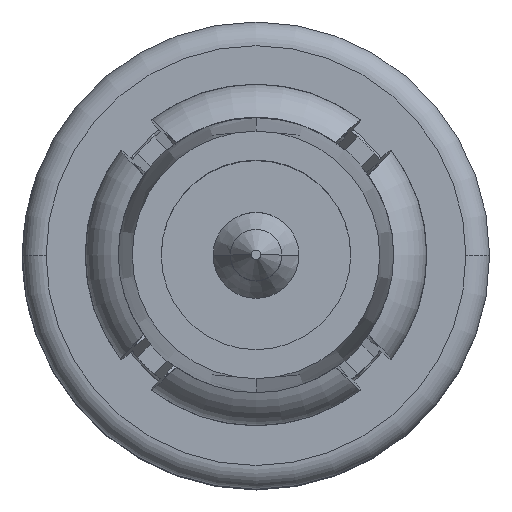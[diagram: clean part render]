
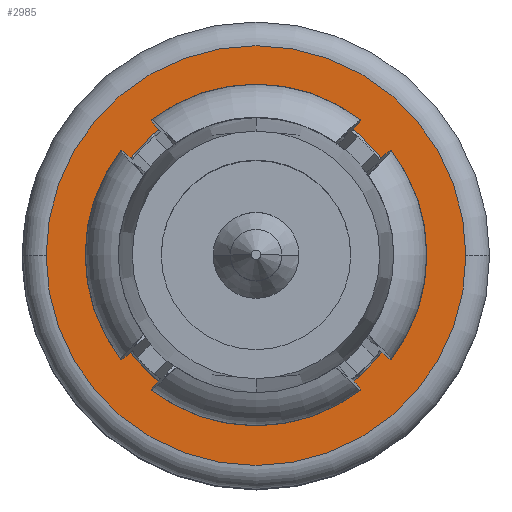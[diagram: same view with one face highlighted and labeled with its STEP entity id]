
A CAD part, top view. The second image highlights one B-rep face of the part: STEP entity #2985.
In plain terms, the highlighted planar face has unit normal (0, 0, 1).
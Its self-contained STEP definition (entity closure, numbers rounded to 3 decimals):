
#483=CARTESIAN_POINT('',(0.,0.,-0.31));
#484=DIRECTION('',(0.,0.,1.));
#485=DIRECTION('',(-1.,0.,0.));
#486=AXIS2_PLACEMENT_3D('',#483,#484,#485);
#488=CARTESIAN_POINT('',(0.,0.,-0.31));
#489=DIRECTION('',(0.,0.,1.));
#490=DIRECTION('',(1.,0.,0.));
#491=AXIS2_PLACEMENT_3D('',#488,#489,#490);
#493=CARTESIAN_POINT('',(0.,0.,-0.31));
#494=DIRECTION('',(0.,0.,-1.));
#495=DIRECTION('',(0.,-1.,0.));
#496=AXIS2_PLACEMENT_3D('',#493,#494,#495);
#498=CARTESIAN_POINT('',(0.,0.,-0.31));
#499=DIRECTION('',(0.,0.,-1.));
#500=DIRECTION('',(0.,1.,0.));
#501=AXIS2_PLACEMENT_3D('',#498,#499,#500);
#2302=CARTESIAN_POINT('',(-2.248,0.,-0.31));
#2303=CARTESIAN_POINT('',(2.248,0.,-0.31));
#2304=VERTEX_POINT('',#2302);
#2305=VERTEX_POINT('',#2303);
#2306=CARTESIAN_POINT('',(0.,-1.703,-0.31));
#2307=CARTESIAN_POINT('',(0.,1.703,-0.31));
#2308=VERTEX_POINT('',#2306);
#2309=VERTEX_POINT('',#2307);
#2969=CARTESIAN_POINT('',(0.,2.102,-0.31));
#2970=DIRECTION('',(0.,0.,-1.));
#2971=DIRECTION('',(0.,1.,0.));
#2972=AXIS2_PLACEMENT_3D('',#2969,#2970,#2971);
#2973=PLANE('',#2972);
#2974=ORIENTED_EDGE('',*,*,#2959,.F.);
#2976=ORIENTED_EDGE('',*,*,#2975,.F.);
#2977=EDGE_LOOP('',(#2974,#2976));
#2978=FACE_OUTER_BOUND('',#2977,.F.);
#2980=ORIENTED_EDGE('',*,*,#2979,.F.);
#2982=ORIENTED_EDGE('',*,*,#2981,.F.);
#2983=EDGE_LOOP('',(#2980,#2982));
#2984=FACE_BOUND('',#2983,.F.);
#2985=ADVANCED_FACE('',(#2978,#2984),#2973,.F.);
#487=CIRCLE('',#486,2.248);
#492=CIRCLE('',#491,2.248);
#497=CIRCLE('',#496,1.703);
#502=CIRCLE('',#501,1.703);
#2959=EDGE_CURVE('',#2304,#2305,#487,.T.);
#2975=EDGE_CURVE('',#2305,#2304,#492,.T.);
#2979=EDGE_CURVE('',#2308,#2309,#497,.T.);
#2981=EDGE_CURVE('',#2309,#2308,#502,.T.);
